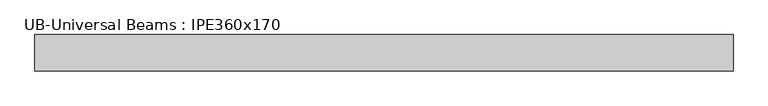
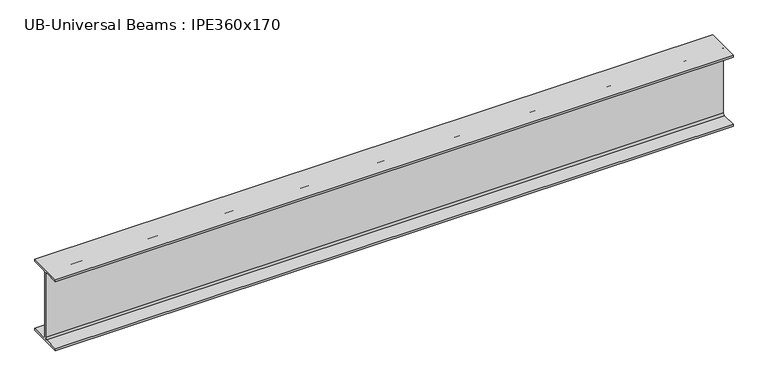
"""IFC4 building model written with IfcOpenShell, lengths in millimetres: beam geometry, UB-Universal Beams : IPE360x170."""

from ifc_helpers import new_model, si_unit, point, frame, frame_2d, origin, place, context, project, spatial, polyline, circle_curve, trimmed, segment, composite_curve, outline, extrude, source, transform, mapped, element, save


def ub_universal_beams_ipe360x170_971bfe62(model_context):
    return source(origin(), model_context, "Body", "SweptSolid", [
        extrude(outline(composite_curve([segment(polyline([(85.0, -169.8), (85.0, -180.0), (-85.0, -180.0), (-85.0, -169.8), (-11.9, -169.8)]), True, "CONTINUOUS"), segment(trimmed(circle_curve(frame_2d((-11.9, -160.9)), 8.9), [point((-11.9, -169.8))], [point((-3.0, -160.9))], True, "CARTESIAN"), True, "CONTINUOUS"), segment(polyline([(-3.0, -160.9), (-3.0, 160.9)]), True, "CONTINUOUS"), segment(trimmed(circle_curve(frame_2d((-11.9, 160.9)), 8.9), [point((-3.0, 160.9))], [point((-11.9, 169.8))], True, "CARTESIAN"), True, "CONTINUOUS"), segment(polyline([(-11.9, 169.8), (-85.0, 169.8), (-85.0, 180.0), (85.0, 180.0), (85.0, 169.8), (11.9, 169.8)]), True, "CONTINUOUS"), segment(trimmed(circle_curve(frame_2d((11.9, 160.9)), 8.9), [point((11.9, 169.8))], [point((3.0, 160.9))], True, "CARTESIAN"), True, "CONTINUOUS"), segment(polyline([(3.0, 160.9), (3.0, -160.9)]), True, "CONTINUOUS"), segment(trimmed(circle_curve(frame_2d((11.9, -160.9)), 8.9), [point((3.0, -160.9))], [point((11.9, -169.8))], True, "CARTESIAN"), True, "CONTINUOUS"), segment(polyline([(11.9, -169.8), (85.0, -169.8)]), True, "CONTINUOUS")], self_intersect=False)), frame((-1674.75, 0.0, 0.0), z_axis=(1.0, 0.0, 0.0), x_axis=(0.0, 1.0, 0.0)), (0.0, 0.0, 1.0), 3246.8),
    ])


if __name__ == "__main__":
    model = new_model("IFC4")
    model_context = context("Model", 3, world=origin())
    ifc_project = project(units=[si_unit("LENGTHUNIT", "METRE", prefix="MILLI")], contexts=[model_context])
    site = spatial("IfcSite", under=ifc_project)
    building = spatial("IfcBuilding", under=site)
    placement = place(None, origin())
    ub_universal_beams_ipe360x170_shape = ub_universal_beams_ipe360x170_971bfe62(model_context)
    element("IfcBeam", 1, ObjectType="UB-Universal Beams : IPE360x170", at=placement, inside=building, context=model_context, shape_type="MappedRepresentation", body=[
        mapped(ub_universal_beams_ipe360x170_shape, transform((0.0, 0.0, 0.0), x_axis=(1.0, 0.0, 0.0), y_axis=(0.0, 1.0, 0.0), z_axis=(0.0, 0.0, 1.0))),
    ])
    save(model, "model.ifc")
